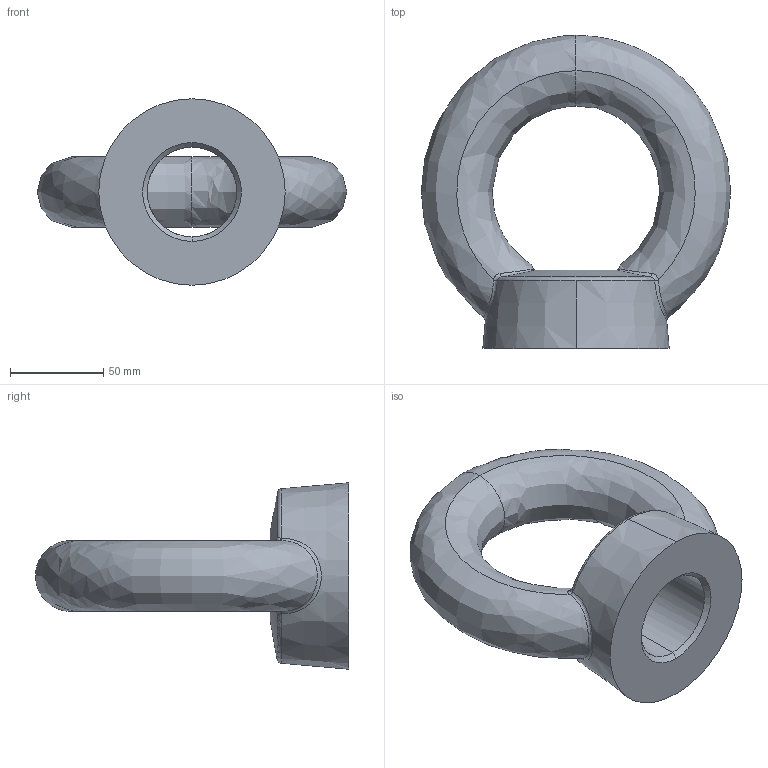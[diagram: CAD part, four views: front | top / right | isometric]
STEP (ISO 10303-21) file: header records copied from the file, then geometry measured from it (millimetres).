
FILE_DESCRIPTION (( 'STEP AP203' ), '1' );
FILE_NAME ('P4041.480-ZP.step', '2023-04-16T08:02:05', ( '' ), ( '' ), 'SwSTEP 2.0', 'SolidWorks 2019', '' );
FILE_SCHEMA (( 'CONFIG_CONTROL_DESIGN' ));
Length unit declared in the file: millimetre
Products named in the file (1): P4041.480-ZP
Bounding box: 166 x 167.98 x 100 mm (x, y, z)
Volume: 577476.7 mm3; surface area: 64521.2 mm2
Topology: 1 solids, 1 shells, 27 faces, 69 edges, 41 vertices
Faces by surface type: bspline 14, cone 7, torus 3, cylinder 2, plane 1
Entity records: 3458 total; most frequent: CARTESIAN_POINT 2832, ORIENTED_EDGE 138, DIRECTION 87, EDGE_CURVE 69, VERTEX_POINT 41, AXIS2_PLACEMENT_3D 40, B_SPLINE_CURVE_WITH_KNOTS 34, EDGE_LOOP 28
